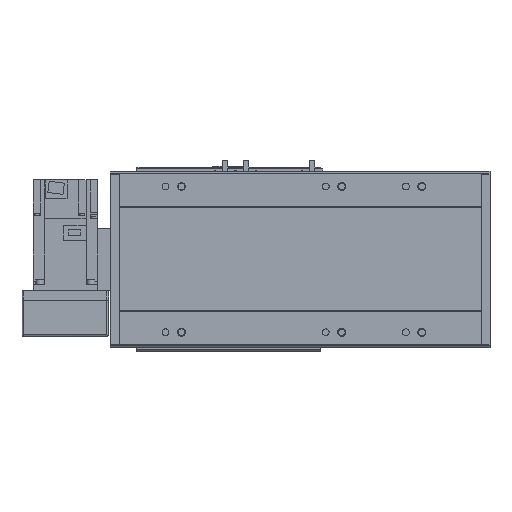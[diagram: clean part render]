
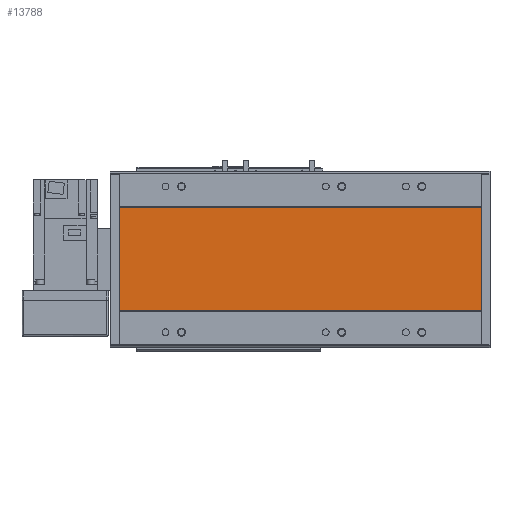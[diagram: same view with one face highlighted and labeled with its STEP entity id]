
A CAD part, front view. The second image highlights one B-rep face of the part: STEP entity #13788.
In plain terms, the highlighted planar face has unit normal (0, -1, 0).
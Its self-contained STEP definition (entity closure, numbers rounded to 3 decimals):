
#3067=ORIENTED_EDGE('',*,*,#6180,.T.);
#3068=ORIENTED_EDGE('',*,*,#6181,.F.);
#3069=ORIENTED_EDGE('',*,*,#6182,.F.);
#3070=ORIENTED_EDGE('',*,*,#6178,.T.);
#6178=EDGE_CURVE('',#7857,#7856,#9098,.T.);
#6180=EDGE_CURVE('',#7856,#7858,#9099,.T.);
#6181=EDGE_CURVE('',#7859,#7858,#9100,.T.);
#6182=EDGE_CURVE('',#7857,#7859,#9101,.T.);
#7856=VERTEX_POINT('',#22648);
#7857=VERTEX_POINT('',#22650);
#7858=VERTEX_POINT('',#22654);
#7859=VERTEX_POINT('',#22656);
#9098=LINE('',#22649,#10433);
#9099=LINE('',#22653,#10434);
#9100=LINE('',#22655,#10435);
#9101=LINE('',#22657,#10436);
#10433=VECTOR('',#18172,1000.);
#10434=VECTOR('',#18177,1000.);
#10435=VECTOR('',#18178,1000.);
#10436=VECTOR('',#18179,1000.);
#11374=EDGE_LOOP('',(#3067,#3068,#3069,#3070));
#12373=FACE_BOUND('',#11374,.T.);
#13147=PLANE('',#15033);
#13788=ADVANCED_FACE('',(#12373),#13147,.F.);
#15033=AXIS2_PLACEMENT_3D('',#22652,#18175,#18176);
#18172=DIRECTION('',(-1.,0.,0.));
#18175=DIRECTION('',(0.,1.,0.));
#18176=DIRECTION('',(0.,0.,1.));
#18177=DIRECTION('',(0.,0.,-1.));
#18178=DIRECTION('',(-1.,0.,0.));
#18179=DIRECTION('',(0.,0.,-1.));
#22648=CARTESIAN_POINT('',(12.,1.,64.294));
#22649=CARTESIAN_POINT('',(464.,1.,64.294));
#22650=CARTESIAN_POINT('',(464.,1.,64.294));
#22652=CARTESIAN_POINT('',(464.,1.,64.294));
#22653=CARTESIAN_POINT('',(12.,1.,64.294));
#22654=CARTESIAN_POINT('',(12.,1.,-64.294));
#22655=CARTESIAN_POINT('',(464.,1.,-64.294));
#22656=CARTESIAN_POINT('',(464.,1.,-64.294));
#22657=CARTESIAN_POINT('',(464.,1.,64.294));
